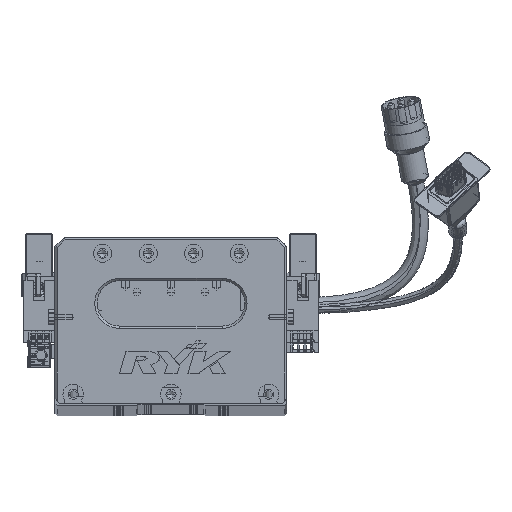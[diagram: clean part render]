
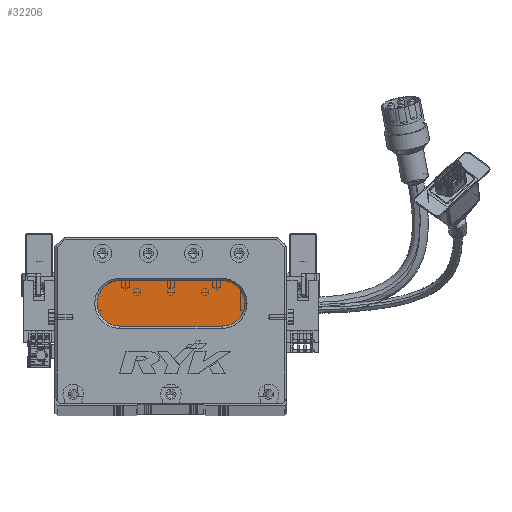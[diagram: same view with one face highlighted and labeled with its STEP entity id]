
A CAD part, top view. The second image highlights one B-rep face of the part: STEP entity #32206.
In plain terms, the highlighted planar face has unit normal (0, 0, 1) as drawn and (0, 0, -1) by its records, which use the part's own axes.
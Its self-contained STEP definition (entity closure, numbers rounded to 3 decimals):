
#5612 = PLANE ( 'NONE',  #64884 ) ;
#8337 = CARTESIAN_POINT ( 'NONE',  ( 73.5, 34., 13. ) ) ;
#8691 = VERTEX_POINT ( 'NONE', #53974 ) ;
#9297 = DIRECTION ( 'NONE',  ( 0., 0., -1. ) ) ;
#9615 = CARTESIAN_POINT ( 'NONE',  ( 28.5, 54., 13. ) ) ;
#14872 = EDGE_CURVE ( 'NONE', #29438, #61335, #67231, .T. ) ;
#15802 = ORIENTED_EDGE ( 'NONE', *, *, #16006, .T. ) ;
#16006 = EDGE_CURVE ( 'NONE', #61335, #36206, #72253, .T. ) ;
#18894 = AXIS2_PLACEMENT_3D ( 'NONE', #24635, #77689, #51362 ) ;
#23624 = VECTOR ( 'NONE', #58572, 1000. ) ;
#24635 = CARTESIAN_POINT ( 'NONE',  ( 28.5, 44., 13. ) ) ;
#24749 = DIRECTION ( 'NONE',  ( -1., 0., 0. ) ) ;
#25047 = DIRECTION ( 'NONE',  ( 0., 0., -1. ) ) ;
#25637 = CIRCLE ( 'NONE', #59467, 10. ) ;
#29438 = VERTEX_POINT ( 'NONE', #49999 ) ;
#30019 = CARTESIAN_POINT ( 'NONE',  ( 28.5, 34., 13. ) ) ;
#30127 = CARTESIAN_POINT ( 'NONE',  ( 73.5, 44., 13. ) ) ;
#32206 = ADVANCED_FACE ( 'NONE', ( #39433 ), #5612, .T. ) ;
#33439 = AXIS2_PLACEMENT_3D ( 'NONE', #30127, #9297, #55716 ) ;
#33840 = CARTESIAN_POINT ( 'NONE',  ( 18.5, 44., 13. ) ) ;
#36206 = VERTEX_POINT ( 'NONE', #33840 ) ;
#39433 = FACE_OUTER_BOUND ( 'NONE', #62047, .T. ) ;
#44616 = CIRCLE ( 'NONE', #33439, 10. ) ;
#44954 = VERTEX_POINT ( 'NONE', #9615 ) ;
#45097 = CARTESIAN_POINT ( 'NONE',  ( 73.5, 44., 13. ) ) ;
#48369 = EDGE_CURVE ( 'NONE', #8691, #29438, #44616, .T. ) ;
#49999 = CARTESIAN_POINT ( 'NONE',  ( 73.5, 34., 13. ) ) ;
#51362 = DIRECTION ( 'NONE',  ( -1., 0., 0. ) ) ;
#53974 = CARTESIAN_POINT ( 'NONE',  ( 73.5, 54., 13. ) ) ;
#53996 = ORIENTED_EDGE ( 'NONE', *, *, #48369, .T. ) ;
#54871 = VECTOR ( 'NONE', #56152, 1000. ) ;
#55671 = EDGE_CURVE ( 'NONE', #44954, #8691, #57942, .T. ) ;
#55716 = DIRECTION ( 'NONE',  ( -1., 0., 0. ) ) ;
#56152 = DIRECTION ( 'NONE',  ( 1., 0., 0. ) ) ;
#56455 = CARTESIAN_POINT ( 'NONE',  ( 73.5, 54., 13. ) ) ;
#56707 = EDGE_CURVE ( 'NONE', #36206, #44954, #25637, .T. ) ;
#57942 = LINE ( 'NONE', #56455, #54871 ) ;
#58572 = DIRECTION ( 'NONE',  ( -1., 0., 0. ) ) ;
#59467 = AXIS2_PLACEMENT_3D ( 'NONE', #69309, #75136, #69032 ) ;
#61029 = ORIENTED_EDGE ( 'NONE', *, *, #56707, .T. ) ;
#61335 = VERTEX_POINT ( 'NONE', #30019 ) ;
#62047 = EDGE_LOOP ( 'NONE', ( #53996, #64779, #15802, #61029, #79066 ) ) ;
#64779 = ORIENTED_EDGE ( 'NONE', *, *, #14872, .T. ) ;
#64884 = AXIS2_PLACEMENT_3D ( 'NONE', #45097, #25047, #24749 ) ;
#67231 = LINE ( 'NONE', #8337, #23624 ) ;
#69032 = DIRECTION ( 'NONE',  ( -1., 0., 0. ) ) ;
#69309 = CARTESIAN_POINT ( 'NONE',  ( 28.5, 44., 13. ) ) ;
#72253 = CIRCLE ( 'NONE', #18894, 10. ) ;
#75136 = DIRECTION ( 'NONE',  ( 0., 0., -1. ) ) ;
#77689 = DIRECTION ( 'NONE',  ( 0., 0., -1. ) ) ;
#79066 = ORIENTED_EDGE ( 'NONE', *, *, #55671, .T. ) ;
